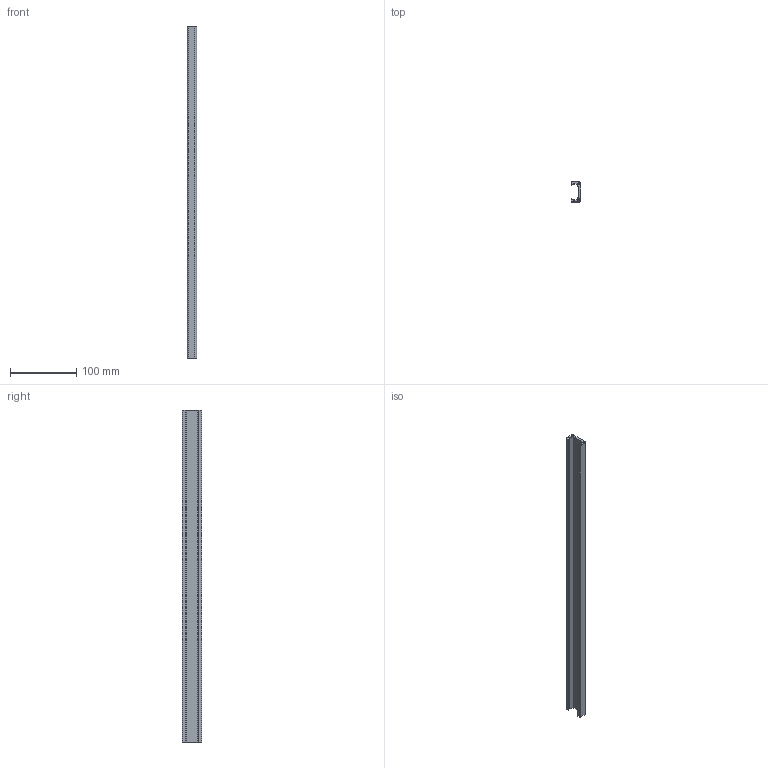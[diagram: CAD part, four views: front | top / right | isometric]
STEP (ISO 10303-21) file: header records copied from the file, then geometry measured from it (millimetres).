
FILE_DESCRIPTION (( 'STEP AP214' ), '1' );
FILE_NAME ('A40766.step', '2024-12-03T16:12:44', ( '' ), ( '' ), 'SwSTEP 2.0', 'SolidWorks 2023', '' );
FILE_SCHEMA (( 'AUTOMOTIVE_DESIGN' ));
Length unit declared in the file: millimetre
Products named in the file (1): A40766
Bounding box: 14 x 30 x 500 mm (x, y, z)
Volume: 83095.5 mm3; surface area: 64308.3 mm2
Topology: 1 solids, 1 shells, 30 faces, 84 edges, 56 vertices
Faces by surface type: plane 24, cylinder 6
Full cylindrical faces by diameter (mm): 3 x2
Entity records: 981 total; most frequent: CARTESIAN_POINT 169, ORIENTED_EDGE 164, DIRECTION 156, EDGE_CURVE 82, VECTOR 70, LINE 70, VERTEX_POINT 56, AXIS2_PLACEMENT_3D 43
